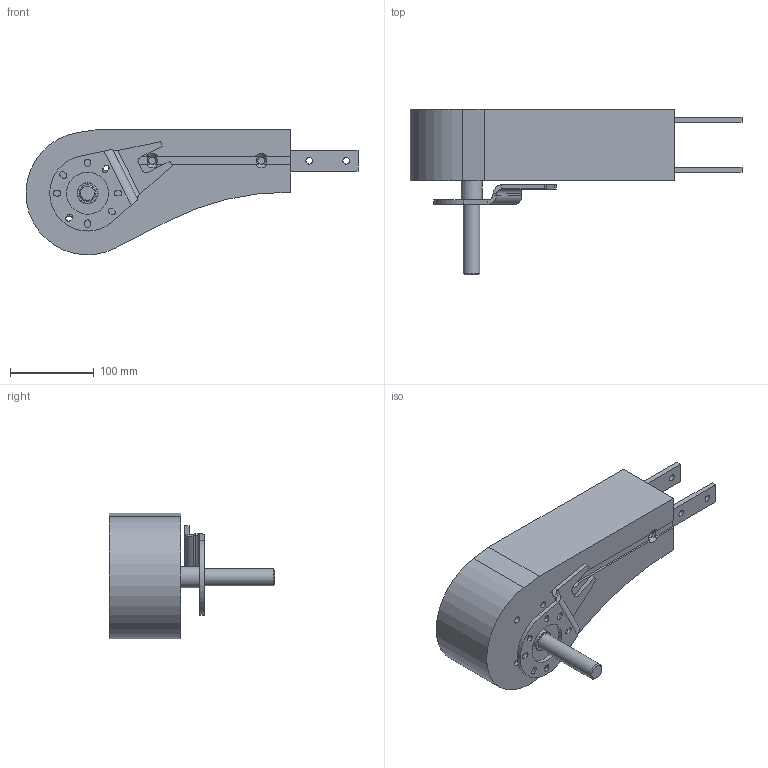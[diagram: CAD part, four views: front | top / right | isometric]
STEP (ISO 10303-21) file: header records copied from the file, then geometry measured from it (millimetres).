
FILE_DESCRIPTION(/* description */ ('Endantriebseinheit FM, medium, ohne Rutschkupplung, links, geschlossen, direkt'),/* implementation_level */ '2;1');
FILE_NAME(/* name */ 'T:\vdz0\Step Daten Website\modulflex FM-System\Antriebseinheiten rechts - links\FMEB_MNLGP_MA-69644.stp',/* time_stamp */ '2024-08-21T09:40:03+02:00',/* author */ ('vdz0'),/* organization */ ('modular automation GmbH'),/* preprocessor_version */ 'ST-DEVELOPER v18.1',/* originating_system */ 'Autodesk Inventor 2021',/* authorisation */ '');
FILE_SCHEMA (('CONFIG_CONTROL_DESIGN'));
Length unit declared in the file: millimetre
Products named in the file (1): FMEB_MNLGP_MA-69644
Bounding box: 395.25 x 197.1 x 149.47 mm (x, y, z)
Volume: 2931705.2 mm3; surface area: 184738.3 mm2
Topology: 2 solids, 3 shells, 137 faces, 354 edges, 228 vertices
Faces by surface type: plane 77, cylinder 44, cone 12, bspline 4
Full cylindrical faces by diameter (mm): 8 x8, 8.5 x6, 20 x1, 25 x1, 50 x1
Entity records: 4758 total; most frequent: CARTESIAN_POINT 1192, ORIENTED_EDGE 708, DIRECTION 702, EDGE_CURVE 354, AXIS2_PLACEMENT_3D 238, VERTEX_POINT 228, LINE 226, VECTOR 226
